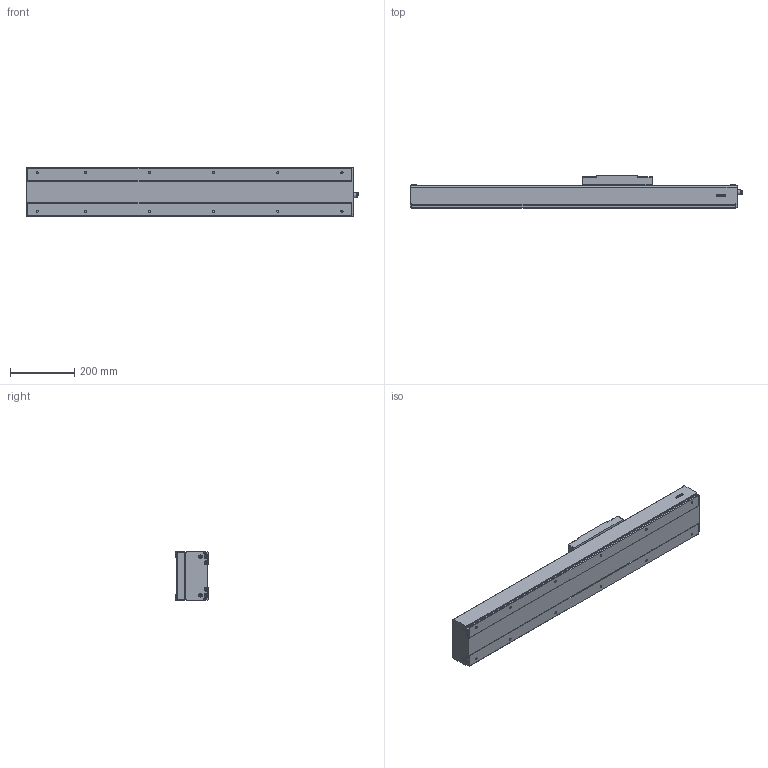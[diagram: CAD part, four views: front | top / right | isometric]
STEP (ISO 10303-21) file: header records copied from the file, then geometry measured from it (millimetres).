
FILE_DESCRIPTION(/* description */ (''),/* implementation_level */ '2;1');
FILE_NAME(/* name */ 'D:\混合母檔20191031\混和母檔\混和母檔\bin\Debug\Download\3D\KS150-20C-500AFI\KS150-20C-500AFI.stp',/* time_stamp */ '2019-11-04T15:58:57+08:00',/* author */ ('user'),/* organization */ (''),/* preprocessor_version */ 'ST-DEVELOPER v16.13',/* originating_system */ 'Autodesk Inventor 2018',/* authorisation */ '');
FILE_SCHEMA (('AUTOMOTIVE_DESIGN { 1 0 10303 214 3 1 1 }'));
Length unit declared in the file: millimetre
Products named in the file (3): KS150-20C-500AFI; KS150-FI; KS150-SL
Assembly tree (2 placements, depth 2):
  KS150-20C-500AFI
    KS150-FI
    KS150-SL
Bounding box: 1035.05 x 100 x 152.4 mm (x, y, z)
Volume: 4487571.6 mm3; surface area: 1055056.9 mm2
Topology: 4 solids, 8 shells, 1237 faces, 3265 edges, 2118 vertices
Faces by surface type: plane 615, cone 226, cylinder 188, bspline 136, torus 68, sphere 4
Full cylindrical faces by diameter (mm): 3.242 x12, 3.571 x8, 4.134 x4, 4.5 x8, 4.509 x6, 4.917 x4, 5 x18, 5.5 x12, 6 x2, 6.647 x16, 8 x4, 8.4 x8, 9.3 x12, 10.437 x1, 12 x1, 14 x1, 15 x1, 15.538 x1, 23 x1, 46 x1, 50 x1
Entity records: 40888 total; most frequent: CARTESIAN_POINT 12708, ORIENTED_EDGE 5832, DIRECTION 5409, EDGE_CURVE 2916, VERTEX_POINT 2012, AXIS2_PLACEMENT_3D 1872, LINE 1665, VECTOR 1665
